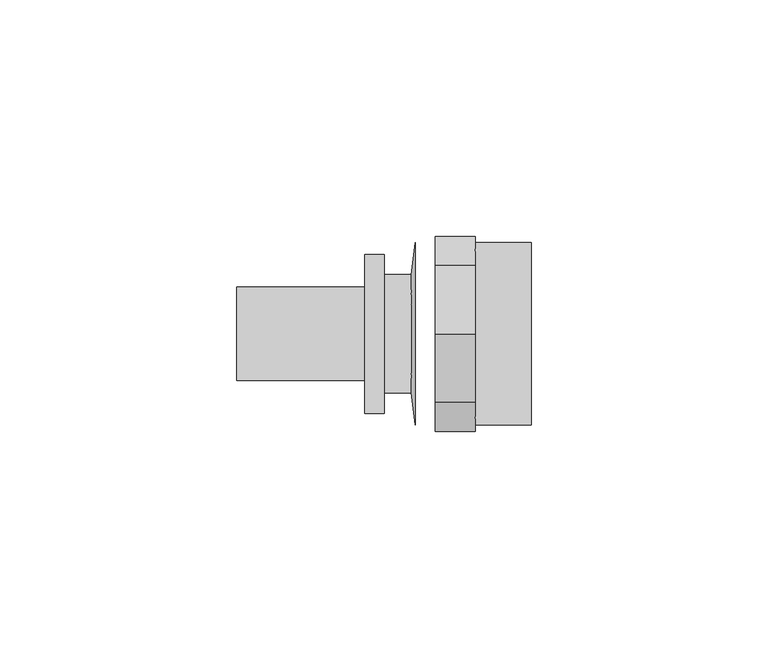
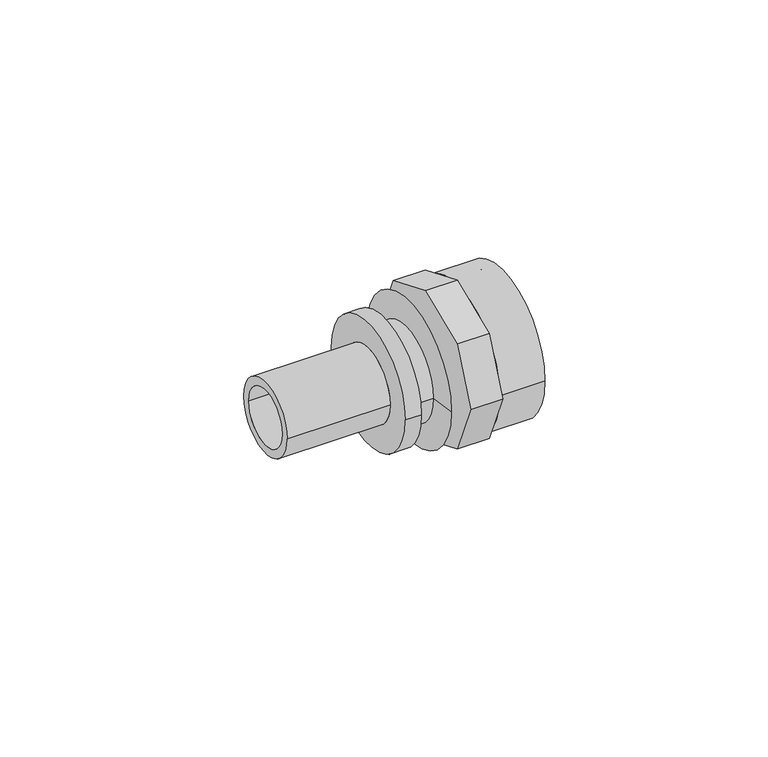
"""IFC4 building model written with IfcOpenShell, lengths in millimetres: pipe fitting geometry, REHAU_RAUTITAN_Adaptor_RX+, with internal thread : REHAU_RAUTITAN_Adaptor_RX+, with internal thread."""

from ifc_helpers import new_model, si_unit, point, frame, origin, origin_2d, place, context, project, spatial, polyline, circle_curve, trimmed, segment, composite_curve, outline, extrude, source, transform, mapped, element, save
from ifc_brep_helpers import plane_surface, cylinder_surface, revolved_surface, advanced_brep


def pipe_fitting_54674e64(model_context):
    return source(origin(), model_context, "Body", "SolidModel", [
        advanced_brep(
        [(4.19, -14.5419704, 14.5419704), (4.19, -20.5654518, 0.0), (4.19, -14.5419704, -14.5419704), (4.19, 0.0, -20.5654518), (4.19, 14.5419704, -14.5419704), (4.19, 20.5654518, 0.0), (4.19, 14.5419704, 14.5419704), (4.19, 0.0, 20.5654518), (4.19, -9.5, 0.0), (4.19, 9.5, 0.0), (-4.19, -14.5419704, 14.5419704), (-4.19, 0.0, 20.5654518), (-4.19, 14.5419704, 14.5419704), (-4.19, 20.5654518, 0.0), (-4.19, 14.5419704, -14.5419704), (-4.19, 0.0, -20.5654518), (-4.19, -14.5419704, -14.5419704), (-4.19, -20.5654518, 0.0), (-4.19, -9.5, 0.0), (-4.19, 9.5, 0.0)],
        [
            (0, 1),
            (1, 2),
            (2, 3),
            (3, 4),
            (4, 5),
            (5, 6),
            (6, 7),
            (7, 0),
            (8, 9, circle_curve(frame((4.19, 0.0, 0.0), z_axis=(-1.0, 0.0, 0.0), x_axis=(0.0, 1.0, 0.0)), 9.5)),
            (9, 8, circle_curve(frame((4.19, 0.0, 0.0), z_axis=(-1.0, 0.0, 0.0), x_axis=(0.0, 1.0, 0.0)), 9.5)),
            (10, 11),
            (11, 12),
            (12, 13),
            (13, 14),
            (14, 15),
            (15, 16),
            (16, 17),
            (17, 10),
            (18, 19, circle_curve(frame((-4.19, 0.0, 0.0), z_axis=(1.0, 0.0, 0.0), x_axis=(0.0, 1.0, 0.0)), 9.5)),
            (19, 18, circle_curve(frame((-4.19, 0.0, 0.0), z_axis=(1.0, 0.0, 0.0), x_axis=(0.0, 1.0, 0.0)), 9.5)),
            (8, 18),
            (19, 9),
            (0, 10),
            (17, 1),
            (16, 2),
            (15, 3),
            (14, 4),
            (13, 5),
            (12, 6),
            (11, 7),
        ],
        [
            plane_surface(frame((4.19, 9.5, 0.0), z_axis=(1.0, 0.0, 0.0), x_axis=(0.0, 0.0, -1.0))),
            plane_surface(frame((-4.19, 9.5, 0.0), z_axis=(-1.0, 0.0, 0.0), x_axis=(0.0, 0.0, 1.0))),
            revolved_surface(polyline([(-4.19, 9.5, 0.0), (4.19, 9.5, 0.0)]), (-4.19, 0.0, 0.0), (-1.0, 0.0, 0.0)),
            plane_surface(frame((4.19, -14.5419704, 14.5419704), z_axis=(0.0, -0.9238795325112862, 0.38268343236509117), x_axis=(-1.0, 0.0, 0.0))),
            plane_surface(frame((4.19, -20.5654518, 0.0), z_axis=(0.0, -0.9238795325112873, -0.38268343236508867), x_axis=(-1.0, 0.0, 0.0))),
            plane_surface(frame((4.19, -14.5419704, -14.5419704), z_axis=(0.0, -0.38268343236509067, -0.9238795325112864), x_axis=(-1.0, 0.0, 0.0))),
            plane_surface(frame((4.19, 0.0, -20.5654518), z_axis=(0.0, 0.3826834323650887, -0.9238795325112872), x_axis=(-1.0, 0.0, 0.0))),
            plane_surface(frame((4.19, 14.5419704, -14.5419704), z_axis=(0.0, 0.9238795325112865, -0.38268343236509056), x_axis=(-1.0, 0.0, 0.0))),
            plane_surface(frame((4.19, 20.5654518, 0.0), z_axis=(0.0, 0.9238795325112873, 0.3826834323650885), x_axis=(-1.0, 0.0, 0.0))),
            plane_surface(frame((4.19, 14.5419704, 14.5419704), z_axis=(0.0, 0.3826834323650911, 0.9238795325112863), x_axis=(-1.0, 0.0, 0.0))),
            plane_surface(frame((4.19, 0.0, 20.5654518), z_axis=(0.0, -0.3826834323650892, 0.923879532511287), x_axis=(-1.0, 0.0, 0.0))),
        ],
        [
            (0, [[1, 2, 3, 4, 5, 6, 7, 8], [9, 10]]),
            (1, [[11, 12, 13, 14, 15, 16, 17, 18], [19, 20]]),
            (2, [[-9, 21, -20, 22]]),
            (2, [[-10, -22, -19, -21]]),
            (3, [[-1, 23, -18, 24]]),
            (4, [[-2, -24, -17, 25]]),
            (5, [[-3, -25, -16, 26]]),
            (6, [[-4, -26, -15, 27]]),
            (7, [[-5, -27, -14, 28]]),
            (8, [[-6, -28, -13, 29]]),
            (9, [[-7, -29, -12, 30]]),
            (10, [[-8, -30, -11, -23]]),
        ],
    ),
        advanced_brep(
        [(-9.34, 12.5, 0.0), (-9.34, -12.5, 0.0), (-14.95, -12.5, 0.0), (-14.95, 12.5, 0.0), (-8.47, 19.25, 0.0), (-8.47, -19.25, 0.0), (-9.34, 9.0, 0.0), (-9.34, -9.0, 0.0), (-8.47, -16.51, 0.0), (-8.47, 16.51, 0.0), (-46.15, 7.6, 0.0), (-46.15, -7.6, 0.0), (-14.95, -7.6, 0.0), (-14.95, 7.6, 0.0), (-19.16, 9.875, 0.0), (-19.16, -9.875, 0.0), (-46.15, -9.875, 0.0), (-46.15, 9.875, 0.0), (-14.95, 16.795, 0.0), (-14.95, -16.795, 0.0), (-19.16, -16.795, 0.0), (-19.16, 16.795, 0.0)],
        [
            (0, 1, circle_curve(frame((-9.34, 0.0, 0.0), z_axis=(-1.0, 0.0, 0.0), x_axis=(0.0, -1.0, 0.0)), 12.5)),
            (1, 2),
            (2, 3, circle_curve(frame((-14.95, 0.0, 0.0), z_axis=(1.0, 0.0, 0.0), x_axis=(0.0, -1.0, 0.0)), 12.5)),
            (3, 0),
            (0, 4),
            (4, 5, circle_curve(frame((-8.47, 0.0, 0.0), z_axis=(-1.0, 0.0, 0.0), x_axis=(0.0, -1.0, 0.0)), 19.25)),
            (5, 1),
            (6, 7, circle_curve(frame((-9.34, 0.0, 0.0), z_axis=(-1.0, 0.0, 0.0), x_axis=(0.0, -1.0, 0.0)), 9.0)),
            (7, 8),
            (8, 9, circle_curve(frame((-8.47, 0.0, 0.0), z_axis=(1.0, 0.0, 0.0), x_axis=(0.0, -1.0, 0.0)), 16.51)),
            (9, 6),
            (10, 11, circle_curve(frame((-46.15, 0.0, 0.0), z_axis=(-1.0, 0.0, 0.0), x_axis=(0.0, -1.0, 0.0)), 7.6)),
            (11, 12),
            (12, 13, circle_curve(frame((-14.95, 0.0, 0.0), z_axis=(1.0, 0.0, 0.0), x_axis=(0.0, -1.0, 0.0)), 7.6)),
            (13, 10),
            (14, 15, circle_curve(frame((-19.16, 0.0, 0.0), z_axis=(-1.0, 0.0, 0.0), x_axis=(0.0, -1.0, 0.0)), 9.875)),
            (15, 16),
            (16, 17, circle_curve(frame((-46.15, 0.0, 0.0), z_axis=(1.0, 0.0, 0.0), x_axis=(0.0, -1.0, 0.0)), 9.875)),
            (17, 14),
            (18, 19, circle_curve(frame((-14.95, 0.0, 0.0), z_axis=(-1.0, 0.0, 0.0), x_axis=(0.0, -1.0, 0.0)), 16.795)),
            (19, 20),
            (20, 21, circle_curve(frame((-19.16, 0.0, 0.0), z_axis=(1.0, 0.0, 0.0), x_axis=(0.0, -1.0, 0.0)), 16.795)),
            (21, 18),
            (18, 19, circle_curve(frame((-14.95, 0.0, 0.0), z_axis=(1.0, 0.0, 0.0), x_axis=(0.0, 1.0, 0.0)), 16.795)),
            (2, 3, circle_curve(frame((-14.95, 0.0, 0.0), z_axis=(-1.0, 0.0, 0.0), x_axis=(0.0, 1.0, 0.0)), 12.5)),
            (1, 0, circle_curve(frame((-9.34, 0.0, 0.0), z_axis=(-1.0, 0.0, 0.0), x_axis=(0.0, 1.0, 0.0)), 12.5)),
            (5, 4, circle_curve(frame((-8.47, 0.0, 0.0), z_axis=(-1.0, 0.0, 0.0), x_axis=(0.0, 1.0, 0.0)), 19.25)),
            (7, 6, circle_curve(frame((-9.34, 0.0, 0.0), z_axis=(-1.0, 0.0, 0.0), x_axis=(0.0, 1.0, 0.0)), 9.0)),
            (9, 8, circle_curve(frame((-8.47, 0.0, 0.0), z_axis=(1.0, 0.0, 0.0), x_axis=(0.0, 1.0, 0.0)), 16.51)),
            (11, 10, circle_curve(frame((-46.15, 0.0, 0.0), z_axis=(-1.0, 0.0, 0.0), x_axis=(0.0, 1.0, 0.0)), 7.6)),
            (13, 12, circle_curve(frame((-14.95, 0.0, 0.0), z_axis=(1.0, 0.0, 0.0), x_axis=(0.0, 1.0, 0.0)), 7.6)),
            (16, 17, circle_curve(frame((-46.15, 0.0, 0.0), z_axis=(-1.0, 0.0, 0.0), x_axis=(0.0, 1.0, 0.0)), 9.875)),
            (15, 14, circle_curve(frame((-19.16, 0.0, 0.0), z_axis=(-1.0, 0.0, 0.0), x_axis=(0.0, 1.0, 0.0)), 9.875)),
            (20, 21, circle_curve(frame((-19.16, 0.0, 0.0), z_axis=(-1.0, 0.0, 0.0), x_axis=(0.0, 1.0, 0.0)), 16.795)),
            (6, 13),
            (12, 7),
        ],
        [
            cylinder_surface(frame((0.0, 0.0, 0.0), z_axis=(1.0, 0.0, 0.0), x_axis=(0.0, -1.0, 0.0)), 12.5),
            revolved_surface(polyline([(-9.34, -12.5, 0.0), (-8.47, -19.25, 0.0)]), (0.0, 0.0, 0.0), (1.0, 0.0, 0.0)),
            revolved_surface(polyline([(-8.47, -16.51, 0.0), (-9.34, -9.0, 0.0)]), (0.0, 0.0, 0.0), (1.0, 0.0, 0.0)),
            revolved_surface(polyline([(-14.95, -7.6, 0.0), (-46.15, -7.6, 0.0)]), (0.0, 0.0, 0.0), (1.0, 0.0, 0.0)),
            cylinder_surface(frame((0.0, 0.0, 0.0), z_axis=(1.0, 0.0, 0.0), x_axis=(0.0, -1.0, 0.0)), 9.875),
            cylinder_surface(frame((0.0, 0.0, 0.0), z_axis=(1.0, 0.0, 0.0), x_axis=(0.0, -1.0, 0.0)), 16.795),
            plane_surface(frame((-14.95, 0.0, 0.0), z_axis=(1.0, 0.0, 0.0), x_axis=(0.0, 1.0, 0.0))),
            cylinder_surface(frame((0.0, 0.0, 0.0), z_axis=(1.0, 0.0, 0.0), x_axis=(0.0, 1.0, 0.0)), 12.5),
            revolved_surface(polyline([(-9.34, 12.5, 0.0), (-8.47, 19.25, 0.0)]), (0.0, 0.0, 0.0), (1.0, 0.0, 0.0)),
            revolved_surface(polyline([(-8.47, 16.51, 0.0), (-9.34, 9.0, 0.0)]), (0.0, 0.0, 0.0), (1.0, 0.0, 0.0)),
            revolved_surface(polyline([(-14.95, 7.6, 0.0), (-46.15, 7.6, 0.0)]), (0.0, 0.0, 0.0), (1.0, 0.0, 0.0)),
            plane_surface(frame((-46.15, 0.0, 0.0), z_axis=(-1.0, 0.0, 0.0), x_axis=(0.0, 1.0, 0.0))),
            cylinder_surface(frame((0.0, 0.0, 0.0), z_axis=(1.0, 0.0, 0.0), x_axis=(0.0, 1.0, 0.0)), 9.875),
            plane_surface(frame((-19.16, 0.0, 0.0), z_axis=(-1.0, 0.0, 0.0), x_axis=(0.0, 1.0, 0.0))),
            cylinder_surface(frame((0.0, 0.0, 0.0), z_axis=(1.0, 0.0, 0.0), x_axis=(0.0, 1.0, 0.0)), 16.795),
            revolved_surface(polyline([(-9.34, -9.0, 0.0), (-14.95, -7.6, 0.0)]), (0.0, 0.0, 0.0), (1.0, 0.0, 0.0)),
            revolved_surface(polyline([(-9.34, 9.0, 0.0), (-14.95, 7.6, 0.0)]), (0.0, 0.0, 0.0), (1.0, 0.0, 0.0)),
            plane_surface(frame((-8.47, 0.0, 0.0), z_axis=(1.0, 0.0, 0.0), x_axis=(0.0, 1.0, 0.0))),
        ],
        [
            (0, [[1, 2, 3, 4]]),
            (1, [[-1, 5, 6, 7]]),
            (2, [[8, 9, 10, 11]]),
            (3, [[12, 13, 14, 15]]),
            (4, [[16, 17, 18, 19]]),
            (5, [[20, 21, 22, 23]]),
            (6, [[-20, 24], [-3, 25]]),
            (7, [[-2, 26, -4, -25]]),
            (8, [[-7, 27, -5, -26]]),
            (9, [[-9, 28, -11, 29]]),
            (10, [[-13, 30, -15, 31]]),
            (11, [[-18, 32], [-12, -30]]),
            (12, [[-17, 33, -19, -32]]),
            (13, [[-22, 34], [-16, -33]]),
            (14, [[-21, -24, -23, -34]]),
            (15, [[-8, 35, -14, 36]]),
            (16, [[-28, -36, -31, -35]]),
            (17, [[-6, -27], [-10, -29]]),
        ],
    ),
        extrude(outline(composite_curve([segment(trimmed(circle_curve(origin_2d(), 19.25), [point((-19.25, 0.0))], [point((19.25, 0.0))], False, "CARTESIAN"), True, "CONTINUOUS"), segment(trimmed(circle_curve(origin_2d(), 19.25), [point((19.25, 0.0))], [point((-19.25, 0.0))], False, "CARTESIAN"), True, "CONTINUOUS")], self_intersect=False), holes=[composite_curve([segment(trimmed(circle_curve(origin_2d(), 16.51), [point((-16.51, 0.0))], [point((16.51, 0.0))], True, "CARTESIAN"), True, "CONTINUOUS"), segment(trimmed(circle_curve(origin_2d(), 16.51), [point((16.51, 0.0))], [point((-16.51, 0.0))], True, "CARTESIAN"), True, "CONTINUOUS")], self_intersect=False)]), frame((4.19, 0.0, 0.0), z_axis=(1.0, 0.0, 0.0), x_axis=(0.0, 1.0, 0.0)), (0.0, 0.0, 1.0), 11.86),
    ])


if __name__ == "__main__":
    model = new_model("IFC4")
    model_context = context("Model", 3, world=origin())
    ifc_project = project(units=[si_unit("LENGTHUNIT", "METRE", prefix="MILLI")], contexts=[model_context])
    site = spatial("IfcSite", under=ifc_project)
    building = spatial("IfcBuilding", under=site)
    placement = place(None, origin())
    pipe_fitting_shape = pipe_fitting_54674e64(model_context)
    element("IfcPipeFitting", 1, ObjectType="REHAU_RAUTITAN_Adaptor_RX+, with internal thread : REHAU_RAUTITAN_Adaptor_RX+, with internal thread", at=placement, inside=building, context=model_context, shape_type="MappedRepresentation", body=[
        mapped(pipe_fitting_shape, transform((0.0, 0.0, 0.0), x_axis=(1.0, 0.0, 0.0), y_axis=(0.0, 1.0, 0.0), z_axis=(0.0, 0.0, 1.0))),
    ])
    save(model, "model.ifc")
